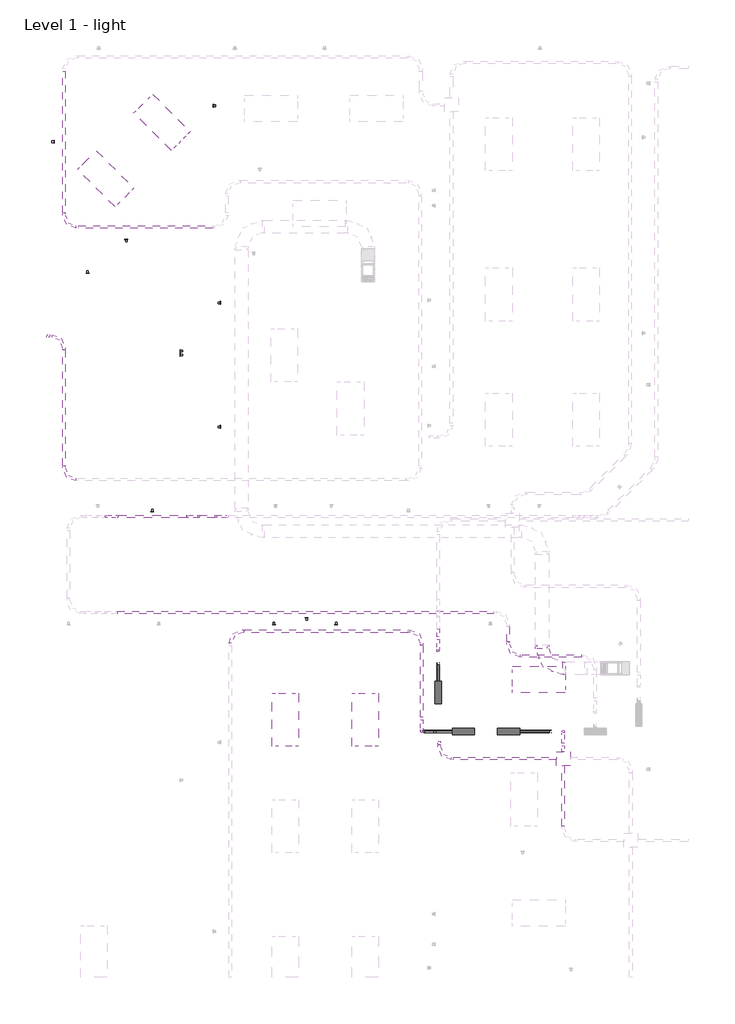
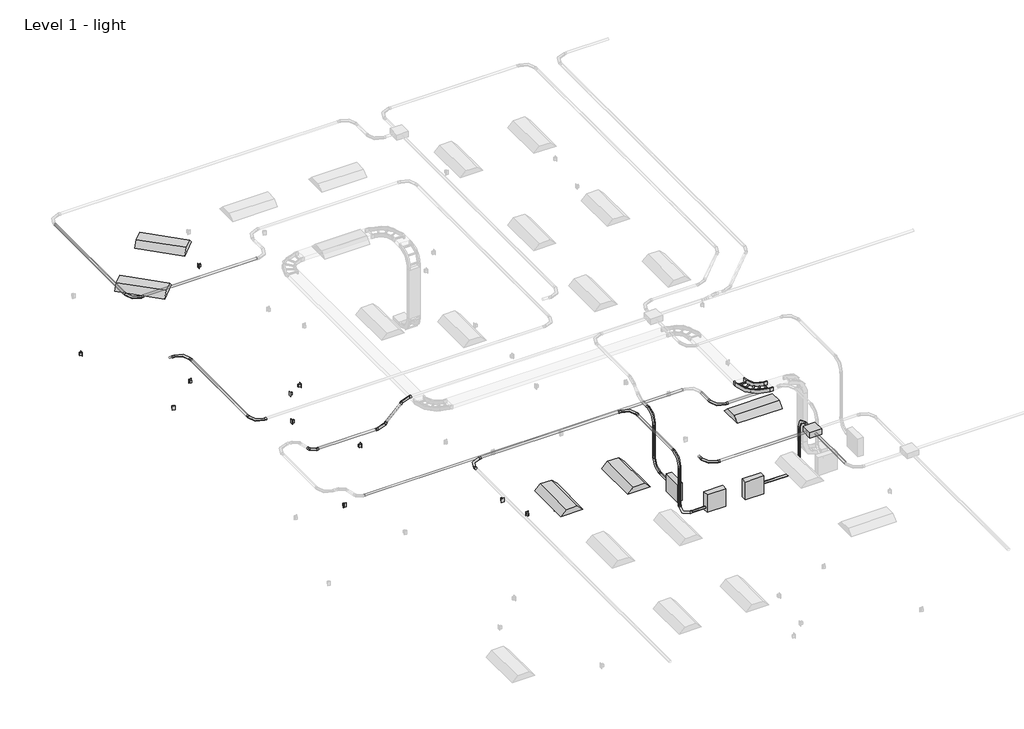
# One storey, part 2 of 5: 22 cable carrier segments, 18 cable carrier fittings, 12 proxies, 5 light fixtures, 3 switching devices.
"""IFC4 building model written with IfcOpenShell, lengths in millimetres."""

from ifc_helpers import new_model, si_unit, point, frame, frame_2d, origin, place, context, project, spatial, circle_curve, trimmed, segment, composite_curve, outline, extrude, transform, mapped, element, save
from components import m_duplex_receptacle_standard_10251bba, m_lighting_and_appliance_panelboard_208v_mlo_100_a_deb79597, m_conduit_elbow_without_fittings_rnc_standard_30e86c5b, m_conduit_elbow_without_fittings_rnc_standard_89ecd00f, m_conduit_junction_box_cross_pvc_standard_3c8550d1, m_ladder_horizontal_bend_standard_b7bc1a9d, m_plain_recessed_lighting_fixture_c7d3eefa

model = new_model("IFC4")

# Units and contexts
model_context = context("Model", 3, world=origin())
ifc_project = project(units=[si_unit("LENGTHUNIT", "METRE", prefix="MILLI")], contexts=[model_context])

# Site, building, storey
site = spatial("IfcSite", under=ifc_project)
building = spatial("IfcBuilding", under=site)
storey = spatial("IfcBuildingStorey", under=building, Name="Level 1 - light", Elevation=0.0)

# Proxies
placement = place(None, origin())
m_duplex_receptacle_standard_shape = m_duplex_receptacle_standard_10251bba(model_context)
element("IfcBuildingElementProxy", 1, Name="M_Duplex Receptacle : Standard", ObjectType="M_Duplex Receptacle : Standard", at=placement, inside=storey, context=model_context, shape_type="MappedRepresentation", body=[
    mapped(m_duplex_receptacle_standard_shape, transform((-19905.112755, 15138.4800155, 460.0), x_axis=(0.0, 1.0, 0.0), y_axis=(0.0, 0.0, 1.0), z_axis=(1.0, 0.0, 0.0))),
])
element("IfcBuildingElementProxy", 2, Name="M_Duplex Receptacle : Standard", ObjectType="M_Duplex Receptacle : Standard", at=placement, inside=storey, context=model_context, shape_type="MappedRepresentation", body=[
    mapped(m_duplex_receptacle_standard_shape, transform((-18251.0734176, 12893.5237109, 460.0), x_axis=(-1.0, 0.0, 0.0), y_axis=(0.0, 0.0, 1.0), z_axis=(0.0, 1.0, 0.0))),
])
element("IfcBuildingElementProxy", 3, Name="M_Duplex Receptacle : Standard", ObjectType="M_Duplex Receptacle : Standard", at=placement, inside=storey, context=model_context, shape_type="MappedRepresentation", body=[
    mapped(m_duplex_receptacle_standard_shape, transform((-16091.937755, 11439.0859659, 460.0), x_axis=(0.0, 1.0, 0.0), y_axis=(0.0, 0.0, 1.0), z_axis=(1.0, 0.0, 0.0))),
])
element("IfcBuildingElementProxy", 4, Name="M_Duplex Receptacle : Standard", ObjectType="M_Duplex Receptacle : Standard", at=placement, inside=storey, context=model_context, shape_type="MappedRepresentation", body=[
    mapped(m_duplex_receptacle_standard_shape, transform((-16091.937755, 8593.3982354, 460.0), x_axis=(0.0, 1.0, 0.0), y_axis=(0.0, 0.0, 1.0), z_axis=(1.0, 0.0, 0.0))),
])
element("IfcBuildingElementProxy", 5, Name="M_Duplex Receptacle : Standard", ObjectType="M_Duplex Receptacle : Standard", at=placement, inside=storey, context=model_context, shape_type="MappedRepresentation", body=[
    mapped(m_duplex_receptacle_standard_shape, transform((-17012.687755, 10245.4188006, 460.0), x_axis=(0.0, -1.0, 0.0), y_axis=(0.0, 0.0, 1.0), z_axis=(-1.0, 0.0, 0.0))),
])
element("IfcBuildingElementProxy", 6, Name="M_Duplex Receptacle : Standard", ObjectType="M_Duplex Receptacle : Standard", at=placement, inside=storey, context=model_context, shape_type="MappedRepresentation", body=[
    mapped(m_duplex_receptacle_standard_shape, transform((-19141.6062776, 12121.9987109, 460.0), x_axis=(1.0, 0.0, 0.0), y_axis=(0.0, 0.0, 1.0), z_axis=(0.0, -1.0, 0.0))),
])
element("IfcBuildingElementProxy", 7, Name="M_Duplex Receptacle : Standard", ObjectType="M_Duplex Receptacle : Standard", at=placement, inside=storey, context=model_context, shape_type="MappedRepresentation", body=[
    mapped(m_duplex_receptacle_standard_shape, transform((-14105.7651397, 4209.8987109, 460.0), x_axis=(-1.0, 0.0, 0.0), y_axis=(0.0, 0.0, 1.0), z_axis=(0.0, 1.0, 0.0))),
])
element("IfcBuildingElementProxy", 8, Name="M_Duplex Receptacle : Standard", ObjectType="M_Duplex Receptacle : Standard", at=placement, inside=storey, context=model_context, shape_type="MappedRepresentation", body=[
    mapped(m_duplex_receptacle_standard_shape, transform((-17651.8899184, 6648.2987109, 460.0), x_axis=(1.0, 0.0, 0.0), y_axis=(0.0, 0.0, 1.0), z_axis=(0.0, -1.0, 0.0))),
])
element("IfcBuildingElementProxy", 9, Name="M_Duplex Receptacle : Standard", ObjectType="M_Duplex Receptacle : Standard", at=placement, inside=storey, context=model_context, shape_type="MappedRepresentation", body=[
    mapped(m_duplex_receptacle_standard_shape, transform((-13429.0781865, 4054.3237109, 460.0), x_axis=(1.0, 0.0, 0.0), y_axis=(0.0, 0.0, 1.0), z_axis=(0.0, -1.0, 0.0))),
])
m_lighting_and_appliance_panelboard_208v_mlo_100_a_shape = m_lighting_and_appliance_panelboard_208v_mlo_100_a_deb79597(model_context)
element("IfcBuildingElementProxy", 10, Name="M_Lighting and Appliance Panelboard - 208V MLO : 100 A", ObjectType="M_Lighting and Appliance Panelboard - 208V MLO : 100 A", at=placement, inside=storey, context=model_context, shape_type="MappedRepresentation", body=[
    mapped(m_lighting_and_appliance_panelboard_208v_mlo_100_a_shape, transform((-10509.4807444, 1530.1987109, 780.9), x_axis=(-1.0, 0.0, 0.0), y_axis=(0.0, 0.0, -1.0), z_axis=(0.0, -1.0, 0.0))),
])
element("IfcBuildingElementProxy", 11, Name="M_Lighting and Appliance Panelboard - 208V MLO : 100 A", ObjectType="M_Lighting and Appliance Panelboard - 208V MLO : 100 A", at=placement, inside=storey, context=model_context, shape_type="MappedRepresentation", body=[
    mapped(m_lighting_and_appliance_panelboard_208v_mlo_100_a_shape, transform((-9470.4, 1530.1987109, 780.9), x_axis=(-1.0, 0.0, 0.0), y_axis=(0.0, 0.0, -1.0), z_axis=(0.0, -1.0, 0.0))),
])
element("IfcBuildingElementProxy", 12, Name="M_Lighting and Appliance Panelboard - 208V MLO : 100 A", ObjectType="M_Lighting and Appliance Panelboard - 208V MLO : 100 A", at=placement, inside=storey, context=model_context, shape_type="MappedRepresentation", body=[
    mapped(m_lighting_and_appliance_panelboard_208v_mlo_100_a_shape, transform((-11164.337755, 2499.4116522, 780.9), x_axis=(0.0, 1.0, 0.0), y_axis=(0.0, 0.0, -1.0), z_axis=(-1.0, 0.0, 0.0))),
])

# Cable carrier fittings
m_conduit_elbow_without_fittings_rnc_standard_shape = m_conduit_elbow_without_fittings_rnc_standard_30e86c5b(model_context)
element("IfcCableCarrierFitting", 13, ObjectType="M_Conduit Elbow - without Fittings - RNC : Standard", at=placement, inside=storey, context=model_context, shape_type="MappedRepresentation", body=[
    mapped(m_conduit_elbow_without_fittings_rnc_standard_shape, transform((-18601.5330554, 6538.0528944, 2427.7), x_axis=(0.7071067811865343, 0.0, -0.7071067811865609), y_axis=(0.7071067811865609, 0.0, 0.7071067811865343), z_axis=(0.0, -1.0, 0.0))),
])
element("IfcCableCarrierFitting", 14, ObjectType="M_Conduit Elbow - without Fittings - RNC : Standard", at=placement, inside=storey, context=model_context, shape_type="MappedRepresentation", body=[
    mapped(m_conduit_elbow_without_fittings_rnc_standard_shape, transform((-16701.5330554, 6538.0528944, 2427.7), x_axis=(1.0, 0.0, 0.0), y_axis=(0.0, 0.0, 1.0), z_axis=(0.0, -1.0, 0.0))),
])
element("IfcCableCarrierFitting", 15, ObjectType="M_Conduit Elbow - without Fittings - RNC : Standard", at=placement, inside=storey, context=model_context, shape_type="MappedRepresentation", body=[
    mapped(m_conduit_elbow_without_fittings_rnc_standard_shape, transform((-16081.2330554, 6538.0528944, 3048.0), x_axis=(0.7071067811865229, 0.0, 0.7071067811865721), y_axis=(0.7071067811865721, 0.0, -0.7071067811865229), z_axis=(0.0, 1.0, 0.0))),
])
m_conduit_elbow_without_fittings_rnc_standard_2_shape = m_conduit_elbow_without_fittings_rnc_standard_89ecd00f(model_context)
element("IfcCableCarrierFitting", 16, ObjectType="M_Conduit Elbow - without Fittings - RNC : Standard", at=placement, inside=storey, context=model_context, shape_type="MappedRepresentation", body=[
    mapped(m_conduit_elbow_without_fittings_rnc_standard_2_shape, transform((-11091.3, 3453.4116522, 1200.0), x_axis=(0.0, 1.0, 0.0), y_axis=(0.0, 0.0, 1.0), z_axis=(1.0, 0.0, 0.0))),
])
element("IfcCableCarrierFitting", 17, ObjectType="M_Conduit Elbow - without Fittings - RNC : Standard", at=placement, inside=storey, context=model_context, shape_type="MappedRepresentation", body=[
    mapped(m_conduit_elbow_without_fittings_rnc_standard_2_shape, transform((-11091.3, 3453.4116522, 2750.0), x_axis=(0.0, 0.0, 1.0), y_axis=(0.0, 1.0, 0.0), z_axis=(-1.0, 0.0, 0.0))),
])
element("IfcCableCarrierFitting", 18, ObjectType="M_Conduit Elbow - without Fittings - RNC : Standard", at=placement, inside=storey, context=model_context, shape_type="MappedRepresentation", body=[
    mapped(m_conduit_elbow_without_fittings_rnc_standard_2_shape, transform((-11463.4807444, 1603.2, 1054.0), x_axis=(-1.0, 0.0, 0.0), y_axis=(0.0, 0.0, 1.0), z_axis=(0.0, 1.0, 0.0))),
])
element("IfcCableCarrierFitting", 19, ObjectType="M_Conduit Elbow - without Fittings - RNC : Standard", at=placement, inside=storey, context=model_context, shape_type="MappedRepresentation", body=[
    mapped(m_conduit_elbow_without_fittings_rnc_standard_2_shape, transform((-11463.4807444, 1603.2, 2750.0), x_axis=(0.0, 0.0, 1.0), y_axis=(0.0, 1.0, 0.0), z_axis=(-1.0, 0.0, 0.0))),
])
element("IfcCableCarrierFitting", 20, ObjectType="M_Conduit Elbow - without Fittings - RNC : Standard", at=placement, inside=storey, context=model_context, shape_type="MappedRepresentation", body=[
    mapped(m_conduit_elbow_without_fittings_rnc_standard_2_shape, transform((-11463.4807444, 3903.2, 2750.0), x_axis=(0.0, 1.0, 0.0), y_axis=(-1.0, 0.0, 0.0), z_axis=(0.0, 0.0, 1.0))),
])
element("IfcCableCarrierFitting", 21, ObjectType="M_Conduit Elbow - without Fittings - RNC : Standard", at=placement, inside=storey, context=model_context, shape_type="MappedRepresentation", body=[
    mapped(m_conduit_elbow_without_fittings_rnc_standard_2_shape, transform((-15863.4807444, 3903.2, 2750.0), x_axis=(-1.0, 0.0, 0.0), y_axis=(0.0, -1.0, 0.0), z_axis=(0.0, 0.0, 1.0))),
])
element("IfcCableCarrierFitting", 22, ObjectType="M_Conduit Elbow - without Fittings - RNC : Standard", at=placement, inside=storey, context=model_context, shape_type="MappedRepresentation", body=[
    mapped(m_conduit_elbow_without_fittings_rnc_standard_2_shape, transform((-11063.4807444, 980.94, 2750.0), x_axis=(0.0, -1.0, 0.0), y_axis=(1.0, 0.0, 0.0), z_axis=(0.0, 0.0, 1.0))),
])
element("IfcCableCarrierFitting", 23, ObjectType="M_Conduit Elbow - without Fittings - RNC : Standard", at=placement, inside=storey, context=model_context, shape_type="MappedRepresentation", body=[
    mapped(m_conduit_elbow_without_fittings_rnc_standard_2_shape, transform((-19682.4372396, 13183.2800092, 3100.0), x_axis=(0.0, -1.0, 0.0), y_axis=(1.0, 0.0, 0.0), z_axis=(0.0, 0.0, 1.0))),
])
element("IfcCableCarrierFitting", 24, ObjectType="M_Conduit Elbow - without Fittings - RNC : Standard", at=placement, inside=storey, context=model_context, shape_type="MappedRepresentation", body=[
    mapped(m_conduit_elbow_without_fittings_rnc_standard_2_shape, transform((-19682.4372396, 7383.2800092, 3100.0), x_axis=(0.0, -1.0, 0.0), y_axis=(1.0, 0.0, 0.0), z_axis=(0.0, 0.0, 1.0))),
])
element("IfcCableCarrierFitting", 25, ObjectType="M_Conduit Elbow - without Fittings - RNC : Standard", at=placement, inside=storey, context=model_context, shape_type="MappedRepresentation", body=[
    mapped(m_conduit_elbow_without_fittings_rnc_standard_2_shape, transform((-19682.4372396, 10683.2800092, 3100.0), x_axis=(0.0, 1.0, 0.0), y_axis=(-1.0, 0.0, 0.0), z_axis=(0.0, 0.0, 1.0))),
])
element("IfcCableCarrierFitting", 26, ObjectType="M_Conduit Elbow - without Fittings - RNC : Standard", at=placement, inside=storey, context=model_context, shape_type="MappedRepresentation", body=[
    mapped(m_conduit_elbow_without_fittings_rnc_standard_2_shape, transform((-8216.4, 1603.2, 1200.0), x_axis=(1.0, 0.0, 0.0), y_axis=(0.0, 0.0, 1.0), z_axis=(0.0, -1.0, 0.0))),
])
element("IfcCableCarrierFitting", 27, ObjectType="M_Conduit Elbow - without Fittings - RNC : Standard", at=placement, inside=storey, context=model_context, shape_type="MappedRepresentation", body=[
    mapped(m_conduit_elbow_without_fittings_rnc_standard_2_shape, transform((-8216.4, 1603.2, 2750.0), x_axis=(0.0, 0.0, 1.0), y_axis=(0.0, -1.0, 0.0), z_axis=(1.0, 0.0, 0.0))),
])
element("IfcCableCarrierFitting", 28, ObjectType="M_Conduit Elbow - without Fittings - RNC : Standard", at=placement, inside=storey, context=model_context, shape_type="MappedRepresentation", body=[
    mapped(m_conduit_elbow_without_fittings_rnc_standard_2_shape, transform((-9481.8, 3338.0528944, 2427.7), x_axis=(0.0, -1.0, 0.0), y_axis=(1.0, 0.0, 0.0), z_axis=(0.0, 0.0, 1.0))),
])
m_conduit_junction_box_cross_pvc_standard_shape = m_conduit_junction_box_cross_pvc_standard_3c8550d1(model_context)
element("IfcCableCarrierFitting", 29, ObjectType="M_Conduit Junction Box - Cross - PVC : Standard", at=placement, inside=storey, context=model_context, shape_type="MappedRepresentation", body=[
    mapped(m_conduit_junction_box_cross_pvc_standard_shape, transform((-8216.4, 980.94, 2750.0), x_axis=(0.0, -1.0, 0.0), y_axis=(1.0, 0.0, 0.0), z_axis=(0.0, 0.0, 1.0))),
])
m_ladder_horizontal_bend_standard_shape = m_ladder_horizontal_bend_standard_b7bc1a9d(model_context)
element("IfcCableCarrierFitting", 30, ObjectType="M_Ladder Horizontal Bend : Standard", at=placement, inside=storey, context=model_context, shape_type="MappedRepresentation", body=[
    mapped(m_ladder_horizontal_bend_standard_shape, transform((-8700.0321645, 3055.778284, 2750.0), x_axis=(0.0, -1.0, 0.0), y_axis=(1.0, 0.0, 0.0), z_axis=(0.0, 0.0, 1.0))),
])

# Cable carrier segments
element("IfcCableCarrierSegment", 31, ObjectType="Rigid Nonmetallic Conduit (RNC Sch 40)", at=placement, inside=storey, context=model_context, shape_type="SweptSolid", body=[
    extrude(outline(composite_curve([segment(trimmed(circle_curve(frame_2d((1200.0, -11091.3)), 30.165), [point((1200.0, -11061.135))], [point((1230.165, -11091.3))], False, "CARTESIAN"), True, "CONTINUOUS"), segment(trimmed(circle_curve(frame_2d((1200.0, -11091.3)), 30.165), [point((1230.165, -11091.3))], [point((1200.0, -11121.465))], False, "CARTESIAN"), True, "CONTINUOUS"), segment(trimmed(circle_curve(frame_2d((1200.0, -11091.3)), 30.165), [point((1200.0, -11121.465))], [point((1169.835, -11091.3))], False, "CARTESIAN"), True, "CONTINUOUS"), segment(trimmed(circle_curve(frame_2d((1200.0, -11091.3)), 30.165), [point((1169.835, -11091.3))], [point((1200.0, -11061.135))], False, "CARTESIAN"), True, "CONTINUOUS")], self_intersect=False)), frame((0.0, 2753.4116522, 0.0), z_axis=(0.0, 1.0, 0.0), x_axis=(0.0, 0.0, 1.0)), (0.0, 0.0, 1.0), 377.74),
])
element("IfcCableCarrierSegment", 32, ObjectType="Rigid Nonmetallic Conduit (RNC Sch 40)", at=placement, inside=storey, context=model_context, shape_type="SweptSolid", body=[
    extrude(outline(composite_curve([segment(trimmed(circle_curve(frame_2d((-11091.3, 3453.4116522)), 30.165), [point((-11121.465, 3453.4116522))], [point((-11091.3, 3483.5766522))], False, "CARTESIAN"), True, "CONTINUOUS"), segment(trimmed(circle_curve(frame_2d((-11091.3, 3453.4116522)), 30.165), [point((-11091.3, 3483.5766522))], [point((-11061.135, 3453.4116522))], False, "CARTESIAN"), True, "CONTINUOUS"), segment(trimmed(circle_curve(frame_2d((-11091.3, 3453.4116522)), 30.165), [point((-11061.135, 3453.4116522))], [point((-11091.3, 3423.2466522))], False, "CARTESIAN"), True, "CONTINUOUS"), segment(trimmed(circle_curve(frame_2d((-11091.3, 3453.4116522)), 30.165), [point((-11091.3, 3423.2466522))], [point((-11121.465, 3453.4116522))], False, "CARTESIAN"), True, "CONTINUOUS")], self_intersect=False)), frame((0.0, 0.0, 1522.26), z_axis=(0.0, 0.0, 1.0), x_axis=(1.0, 0.0, 0.0)), (0.0, 0.0, 1.0), 905.48),
])
element("IfcCableCarrierSegment", 33, ObjectType="Rigid Nonmetallic Conduit (RNC Sch 40)", at=placement, inside=storey, context=model_context, shape_type="SweptSolid", body=[
    extrude(outline(composite_curve([segment(trimmed(circle_curve(frame_2d((2750.0, -11091.3)), 30.165), [point((2750.0, -11061.135))], [point((2780.165, -11091.3))], False, "CARTESIAN"), True, "CONTINUOUS"), segment(trimmed(circle_curve(frame_2d((2750.0, -11091.3)), 30.165), [point((2780.165, -11091.3))], [point((2750.0, -11121.465))], False, "CARTESIAN"), True, "CONTINUOUS"), segment(trimmed(circle_curve(frame_2d((2750.0, -11091.3)), 30.165), [point((2750.0, -11121.465))], [point((2719.835, -11091.3))], False, "CARTESIAN"), True, "CONTINUOUS"), segment(trimmed(circle_curve(frame_2d((2750.0, -11091.3)), 30.165), [point((2719.835, -11091.3))], [point((2750.0, -11061.135))], False, "CARTESIAN"), True, "CONTINUOUS")], self_intersect=False)), frame((0.0, 3775.6716522, 0.0), z_axis=(0.0, 1.0, 0.0), x_axis=(0.0, 0.0, 1.0)), (0.0, 0.0, 1.0), 189.4975864),
])
element("IfcCableCarrierSegment", 34, ObjectType="Rigid Nonmetallic Conduit (RNC Sch 40)", at=placement, inside=storey, context=model_context, shape_type="SweptSolid", body=[
    extrude(outline(composite_curve([segment(trimmed(circle_curve(frame_2d((1603.2, 1054.0)), 30.165), [point((1633.365, 1054.0))], [point((1603.2, 1023.835))], False, "CARTESIAN"), True, "CONTINUOUS"), segment(trimmed(circle_curve(frame_2d((1603.2, 1054.0)), 30.165), [point((1603.2, 1023.835))], [point((1573.035, 1054.0))], False, "CARTESIAN"), True, "CONTINUOUS"), segment(trimmed(circle_curve(frame_2d((1603.2, 1054.0)), 30.165), [point((1573.035, 1054.0))], [point((1603.2, 1084.165))], False, "CARTESIAN"), True, "CONTINUOUS"), segment(trimmed(circle_curve(frame_2d((1603.2, 1054.0)), 30.165), [point((1603.2, 1084.165))], [point((1633.365, 1054.0))], False, "CARTESIAN"), True, "CONTINUOUS")], self_intersect=False)), frame((-11141.2207444, 0.0, 0.0), z_axis=(1.0, 0.0, 0.0), x_axis=(0.0, 1.0, 0.0)), (0.0, 0.0, 1.0), 377.74),
])
element("IfcCableCarrierSegment", 35, ObjectType="Rigid Nonmetallic Conduit (RNC Sch 40)", at=placement, inside=storey, context=model_context, shape_type="SweptSolid", body=[
    extrude(outline(composite_curve([segment(trimmed(circle_curve(frame_2d((-11463.4807444, 1603.2)), 30.165), [point((-11493.6457444, 1603.2))], [point((-11463.4807444, 1633.365))], False, "CARTESIAN"), True, "CONTINUOUS"), segment(trimmed(circle_curve(frame_2d((-11463.4807444, 1603.2)), 30.165), [point((-11463.4807444, 1633.365))], [point((-11433.3157444, 1603.2))], False, "CARTESIAN"), True, "CONTINUOUS"), segment(trimmed(circle_curve(frame_2d((-11463.4807444, 1603.2)), 30.165), [point((-11433.3157444, 1603.2))], [point((-11463.4807444, 1573.035))], False, "CARTESIAN"), True, "CONTINUOUS"), segment(trimmed(circle_curve(frame_2d((-11463.4807444, 1603.2)), 30.165), [point((-11463.4807444, 1573.035))], [point((-11493.6457444, 1603.2))], False, "CARTESIAN"), True, "CONTINUOUS")], self_intersect=False)), frame((0.0, 0.0, 1376.26), z_axis=(0.0, 0.0, 1.0), x_axis=(1.0, 0.0, 0.0)), (0.0, 0.0, 1.0), 1051.48),
])
element("IfcCableCarrierSegment", 36, ObjectType="Rigid Nonmetallic Conduit (RNC Sch 40)", at=placement, inside=storey, context=model_context, shape_type="SweptSolid", body=[
    extrude(outline(composite_curve([segment(trimmed(circle_curve(frame_2d((2750.0, -11463.4807444)), 30.165), [point((2750.0, -11433.3157444))], [point((2780.165, -11463.4807444))], False, "CARTESIAN"), True, "CONTINUOUS"), segment(trimmed(circle_curve(frame_2d((2750.0, -11463.4807444)), 30.165), [point((2780.165, -11463.4807444))], [point((2750.0, -11493.6457444))], False, "CARTESIAN"), True, "CONTINUOUS"), segment(trimmed(circle_curve(frame_2d((2750.0, -11463.4807444)), 30.165), [point((2750.0, -11493.6457444))], [point((2719.835, -11463.4807444))], False, "CARTESIAN"), True, "CONTINUOUS"), segment(trimmed(circle_curve(frame_2d((2750.0, -11463.4807444)), 30.165), [point((2719.835, -11463.4807444))], [point((2750.0, -11433.3157444))], False, "CARTESIAN"), True, "CONTINUOUS")], self_intersect=False)), frame((0.0, 1925.46, 0.0), z_axis=(0.0, 1.0, 0.0), x_axis=(0.0, 0.0, 1.0)), (0.0, 0.0, 1.0), 1655.48),
])
element("IfcCableCarrierSegment", 37, ObjectType="Rigid Nonmetallic Conduit (RNC Sch 40)", at=placement, inside=storey, context=model_context, shape_type="SweptSolid", body=[
    extrude(outline(composite_curve([segment(trimmed(circle_curve(frame_2d((3903.2, 2750.0)), 30.165), [point((3933.365, 2750.0))], [point((3903.2, 2719.835))], False, "CARTESIAN"), True, "CONTINUOUS"), segment(trimmed(circle_curve(frame_2d((3903.2, 2750.0)), 30.165), [point((3903.2, 2719.835))], [point((3873.035, 2750.0))], False, "CARTESIAN"), True, "CONTINUOUS"), segment(trimmed(circle_curve(frame_2d((3903.2, 2750.0)), 30.165), [point((3873.035, 2750.0))], [point((3903.2, 2780.165))], False, "CARTESIAN"), True, "CONTINUOUS"), segment(trimmed(circle_curve(frame_2d((3903.2, 2750.0)), 30.165), [point((3903.2, 2780.165))], [point((3933.365, 2750.0))], False, "CARTESIAN"), True, "CONTINUOUS")], self_intersect=False)), frame((-15541.2207444, 0.0, 0.0), z_axis=(1.0, 0.0, 0.0), x_axis=(0.0, 1.0, 0.0)), (0.0, 0.0, 1.0), 3755.48),
])
element("IfcCableCarrierSegment", 38, ObjectType="Rigid Nonmetallic Conduit (RNC Sch 40)", at=placement, inside=storey, context=model_context, shape_type="SweptSolid", body=[
    extrude(outline(composite_curve([segment(trimmed(circle_curve(frame_2d((980.94, 2750.0)), 30.165), [point((1011.105, 2750.0))], [point((980.94, 2719.835))], False, "CARTESIAN"), True, "CONTINUOUS"), segment(trimmed(circle_curve(frame_2d((980.94, 2750.0)), 30.165), [point((980.94, 2719.835))], [point((950.775, 2750.0))], False, "CARTESIAN"), True, "CONTINUOUS"), segment(trimmed(circle_curve(frame_2d((980.94, 2750.0)), 30.165), [point((950.775, 2750.0))], [point((980.94, 2780.165))], False, "CARTESIAN"), True, "CONTINUOUS"), segment(trimmed(circle_curve(frame_2d((980.94, 2750.0)), 30.165), [point((980.94, 2780.165))], [point((1011.105, 2750.0))], False, "CARTESIAN"), True, "CONTINUOUS")], self_intersect=False)), frame((-10741.2207444, 0.0, 0.0), z_axis=(1.0, 0.0, 0.0), x_axis=(0.0, 1.0, 0.0)), (0.0, 0.0, 1.0), 2365.8207444),
])
element("IfcCableCarrierSegment", 39, ObjectType="Rigid Nonmetallic Conduit (RNC Sch 40)", at=placement, inside=storey, context=model_context, shape_type="SweptSolid", body=[
    extrude(outline(composite_curve([segment(trimmed(circle_curve(frame_2d((2750.0, -11063.4807444)), 30.165), [point((2750.0, -11033.3157444))], [point((2780.165, -11063.4807444))], False, "CARTESIAN"), True, "CONTINUOUS"), segment(trimmed(circle_curve(frame_2d((2750.0, -11063.4807444)), 30.165), [point((2780.165, -11063.4807444))], [point((2750.0, -11093.6457444))], False, "CARTESIAN"), True, "CONTINUOUS"), segment(trimmed(circle_curve(frame_2d((2750.0, -11063.4807444)), 30.165), [point((2750.0, -11093.6457444))], [point((2719.835, -11063.4807444))], False, "CARTESIAN"), True, "CONTINUOUS"), segment(trimmed(circle_curve(frame_2d((2750.0, -11063.4807444)), 30.165), [point((2719.835, -11063.4807444))], [point((2750.0, -11033.3157444))], False, "CARTESIAN"), True, "CONTINUOUS")], self_intersect=False)), frame((0.0, 1303.2, 0.0), z_axis=(0.0, 1.0, 0.0), x_axis=(0.0, 0.0, 1.0)), (0.0, 0.0, 1.0), 77.74),
])
element("IfcCableCarrierSegment", 40, ObjectType="Rigid Nonmetallic Conduit (RNC Sch 40)", at=placement, inside=storey, context=model_context, shape_type="SweptSolid", body=[
    extrude(outline(composite_curve([segment(trimmed(circle_curve(frame_2d((3100.0, -19682.4372396)), 30.165), [point((3100.0, -19712.6022396))], [point((3069.835, -19682.4372396))], False, "CARTESIAN"), True, "CONTINUOUS"), segment(trimmed(circle_curve(frame_2d((3100.0, -19682.4372396)), 30.165), [point((3069.835, -19682.4372396))], [point((3100.0, -19652.2722396))], False, "CARTESIAN"), True, "CONTINUOUS"), segment(trimmed(circle_curve(frame_2d((3100.0, -19682.4372396)), 30.165), [point((3100.0, -19652.2722396))], [point((3130.165, -19682.4372396))], False, "CARTESIAN"), True, "CONTINUOUS"), segment(trimmed(circle_curve(frame_2d((3100.0, -19682.4372396)), 30.165), [point((3130.165, -19682.4372396))], [point((3100.0, -19712.6022396))], False, "CARTESIAN"), True, "CONTINUOUS")], self_intersect=False)), frame((0.0, 13505.5400092, 0.0), z_axis=(0.0, 1.0, 0.0), x_axis=(0.0, 0.0, 1.0)), (0.0, 0.0, 1.0), 3255.48),
])
element("IfcCableCarrierSegment", 41, ObjectType="Rigid Nonmetallic Conduit (RNC Sch 40)", at=placement, inside=storey, context=model_context, shape_type="SweptSolid", body=[
    extrude(outline(composite_curve([segment(trimmed(circle_curve(frame_2d((13183.2800092, 3100.0)), 30.165), [point((13153.1150092, 3100.0))], [point((13183.2800092, 3130.165))], False, "CARTESIAN"), True, "CONTINUOUS"), segment(trimmed(circle_curve(frame_2d((13183.2800092, 3100.0)), 30.165), [point((13183.2800092, 3130.165))], [point((13213.4450092, 3100.0))], False, "CARTESIAN"), True, "CONTINUOUS"), segment(trimmed(circle_curve(frame_2d((13183.2800092, 3100.0)), 30.165), [point((13213.4450092, 3100.0))], [point((13183.2800092, 3069.835))], False, "CARTESIAN"), True, "CONTINUOUS"), segment(trimmed(circle_curve(frame_2d((13183.2800092, 3100.0)), 30.165), [point((13183.2800092, 3069.835))], [point((13153.1150092, 3100.0))], False, "CARTESIAN"), True, "CONTINUOUS")], self_intersect=False)), frame((-19360.1772396, 0.0, 0.0), z_axis=(1.0, 0.0, 0.0), x_axis=(0.0, 1.0, 0.0)), (0.0, 0.0, 1.0), 3095.48),
])
element("IfcCableCarrierSegment", 42, ObjectType="Rigid Nonmetallic Conduit (RNC Sch 40)", at=placement, inside=storey, context=model_context, shape_type="SweptSolid", body=[
    extrude(outline(composite_curve([segment(trimmed(circle_curve(frame_2d((3100.0, -19682.4372396)), 30.165), [point((3100.0, -19652.2722396))], [point((3130.165, -19682.4372396))], False, "CARTESIAN"), True, "CONTINUOUS"), segment(trimmed(circle_curve(frame_2d((3100.0, -19682.4372396)), 30.165), [point((3130.165, -19682.4372396))], [point((3100.0, -19712.6022396))], False, "CARTESIAN"), True, "CONTINUOUS"), segment(trimmed(circle_curve(frame_2d((3100.0, -19682.4372396)), 30.165), [point((3100.0, -19712.6022396))], [point((3069.835, -19682.4372396))], False, "CARTESIAN"), True, "CONTINUOUS"), segment(trimmed(circle_curve(frame_2d((3100.0, -19682.4372396)), 30.165), [point((3069.835, -19682.4372396))], [point((3100.0, -19652.2722396))], False, "CARTESIAN"), True, "CONTINUOUS")], self_intersect=False)), frame((0.0, 7705.5400092, 0.0), z_axis=(0.0, 1.0, 0.0), x_axis=(0.0, 0.0, 1.0)), (0.0, 0.0, 1.0), 2655.48),
])
element("IfcCableCarrierSegment", 43, ObjectType="Rigid Nonmetallic Conduit (RNC Sch 40)", at=placement, inside=storey, context=model_context, shape_type="SweptSolid", body=[
    extrude(outline(composite_curve([segment(trimmed(circle_curve(frame_2d((10683.2800092, 3100.0)), 30.165), [point((10713.4450092, 3100.0))], [point((10683.2800092, 3069.835))], False, "CARTESIAN"), True, "CONTINUOUS"), segment(trimmed(circle_curve(frame_2d((10683.2800092, 3100.0)), 30.165), [point((10683.2800092, 3069.835))], [point((10653.1150092, 3100.0))], False, "CARTESIAN"), True, "CONTINUOUS"), segment(trimmed(circle_curve(frame_2d((10683.2800092, 3100.0)), 30.165), [point((10653.1150092, 3100.0))], [point((10683.2800092, 3130.165))], False, "CARTESIAN"), True, "CONTINUOUS"), segment(trimmed(circle_curve(frame_2d((10683.2800092, 3100.0)), 30.165), [point((10683.2800092, 3130.165))], [point((10713.4450092, 3100.0))], False, "CARTESIAN"), True, "CONTINUOUS")], self_intersect=False)), frame((-20082.4372396, 0.0, 0.0), z_axis=(1.0, 0.0, 0.0), x_axis=(0.0, 1.0, 0.0)), (0.0, 0.0, 1.0), 77.74),
])
element("IfcCableCarrierSegment", 44, ObjectType="Rigid Nonmetallic Conduit (RNC Sch 40)", at=placement, inside=storey, context=model_context, shape_type="SweptSolid", body=[
    extrude(outline(composite_curve([segment(trimmed(circle_curve(frame_2d((1603.2, 1200.0)), 30.165), [point((1573.035, 1200.0))], [point((1603.2, 1230.165))], False, "CARTESIAN"), True, "CONTINUOUS"), segment(trimmed(circle_curve(frame_2d((1603.2, 1200.0)), 30.165), [point((1603.2, 1230.165))], [point((1633.365, 1200.0))], False, "CARTESIAN"), True, "CONTINUOUS"), segment(trimmed(circle_curve(frame_2d((1603.2, 1200.0)), 30.165), [point((1633.365, 1200.0))], [point((1603.2, 1169.835))], False, "CARTESIAN"), True, "CONTINUOUS"), segment(trimmed(circle_curve(frame_2d((1603.2, 1200.0)), 30.165), [point((1603.2, 1169.835))], [point((1573.035, 1200.0))], False, "CARTESIAN"), True, "CONTINUOUS")], self_intersect=False)), frame((-9216.4, 0.0, 0.0), z_axis=(1.0, 0.0, 0.0), x_axis=(0.0, 1.0, 0.0)), (0.0, 0.0, 1.0), 677.74),
])
element("IfcCableCarrierSegment", 45, ObjectType="Rigid Nonmetallic Conduit (RNC Sch 40)", at=placement, inside=storey, context=model_context, shape_type="SweptSolid", body=[
    extrude(outline(composite_curve([segment(trimmed(circle_curve(frame_2d((-8216.4, 1603.2)), 30.165), [point((-8246.565, 1603.2))], [point((-8216.4, 1633.365))], False, "CARTESIAN"), True, "CONTINUOUS"), segment(trimmed(circle_curve(frame_2d((-8216.4, 1603.2)), 30.165), [point((-8216.4, 1633.365))], [point((-8186.235, 1603.2))], False, "CARTESIAN"), True, "CONTINUOUS"), segment(trimmed(circle_curve(frame_2d((-8216.4, 1603.2)), 30.165), [point((-8186.235, 1603.2))], [point((-8216.4, 1573.035))], False, "CARTESIAN"), True, "CONTINUOUS"), segment(trimmed(circle_curve(frame_2d((-8216.4, 1603.2)), 30.165), [point((-8216.4, 1573.035))], [point((-8246.565, 1603.2))], False, "CARTESIAN"), True, "CONTINUOUS")], self_intersect=False)), frame((0.0, 0.0, 1522.26), z_axis=(0.0, 0.0, 1.0), x_axis=(1.0, 0.0, 0.0)), (0.0, 0.0, 1.0), 905.48),
])
element("IfcCableCarrierSegment", 46, ObjectType="Rigid Nonmetallic Conduit (RNC Sch 40)", at=placement, inside=storey, context=model_context, shape_type="SweptSolid", body=[
    extrude(outline(composite_curve([segment(trimmed(circle_curve(frame_2d((2750.0, -8216.4)), 30.165), [point((2750.0, -8246.565))], [point((2719.835, -8216.4))], False, "CARTESIAN"), True, "CONTINUOUS"), segment(trimmed(circle_curve(frame_2d((2750.0, -8216.4)), 30.165), [point((2719.835, -8216.4))], [point((2750.0, -8186.235))], False, "CARTESIAN"), True, "CONTINUOUS"), segment(trimmed(circle_curve(frame_2d((2750.0, -8216.4)), 30.165), [point((2750.0, -8186.235))], [point((2780.165, -8216.4))], False, "CARTESIAN"), True, "CONTINUOUS"), segment(trimmed(circle_curve(frame_2d((2750.0, -8216.4)), 30.165), [point((2780.165, -8216.4))], [point((2750.0, -8246.565))], False, "CARTESIAN"), True, "CONTINUOUS")], self_intersect=False)), frame((0.0, 1139.94, 0.0), z_axis=(0.0, 1.0, 0.0), x_axis=(0.0, 0.0, 1.0)), (0.0, 0.0, 1.0), 141.0),
])
element("IfcCableCarrierSegment", 47, ObjectType="Rigid Nonmetallic Conduit (RNC Sch 40)", at=placement, inside=storey, context=model_context, shape_type="SweptSolid", body=[
    extrude(outline(composite_curve([segment(trimmed(circle_curve(frame_2d((2750.0, -8216.4)), 30.165), [point((2750.0, -8246.565))], [point((2719.835, -8216.4))], False, "CARTESIAN"), True, "CONTINUOUS"), segment(trimmed(circle_curve(frame_2d((2750.0, -8216.4)), 30.165), [point((2719.835, -8216.4))], [point((2750.0, -8186.235))], False, "CARTESIAN"), True, "CONTINUOUS"), segment(trimmed(circle_curve(frame_2d((2750.0, -8216.4)), 30.165), [point((2750.0, -8186.235))], [point((2780.165, -8216.4))], False, "CARTESIAN"), True, "CONTINUOUS"), segment(trimmed(circle_curve(frame_2d((2750.0, -8216.4)), 30.165), [point((2780.165, -8216.4))], [point((2750.0, -8246.565))], False, "CARTESIAN"), True, "CONTINUOUS")], self_intersect=False)), frame((0.0, -574.54, 0.0), z_axis=(0.0, 1.0, 0.0), x_axis=(0.0, 0.0, 1.0)), (0.0, 0.0, 1.0), 1396.48),
])
element("IfcCableCarrierSegment", 48, ObjectType="Rigid Nonmetallic Conduit (RNC Sch 40)", at=placement, inside=storey, context=model_context, shape_type="SweptSolid", body=[
    extrude(outline(composite_curve([segment(trimmed(circle_curve(frame_2d((3338.0528944, 2427.7)), 30.165), [point((3368.2178944, 2427.7))], [point((3338.0528944, 2397.535))], False, "CARTESIAN"), True, "CONTINUOUS"), segment(trimmed(circle_curve(frame_2d((3338.0528944, 2427.7)), 30.165), [point((3338.0528944, 2397.535))], [point((3307.8878944, 2427.7))], False, "CARTESIAN"), True, "CONTINUOUS"), segment(trimmed(circle_curve(frame_2d((3338.0528944, 2427.7)), 30.165), [point((3307.8878944, 2427.7))], [point((3338.0528944, 2457.865))], False, "CARTESIAN"), True, "CONTINUOUS"), segment(trimmed(circle_curve(frame_2d((3338.0528944, 2427.7)), 30.165), [point((3338.0528944, 2457.865))], [point((3368.2178944, 2427.7))], False, "CARTESIAN"), True, "CONTINUOUS")], self_intersect=False)), frame((-9159.54, 0.0, 0.0), z_axis=(1.0, 0.0, 0.0), x_axis=(0.0, 1.0, 0.0)), (0.0, 0.0, 1.0), 1355.48),
])
element("IfcCableCarrierSegment", 49, ObjectType="Rigid Nonmetallic Conduit (RNC Sch 40)", at=placement, inside=storey, context=model_context, shape_type="SweptSolid", body=[
    extrude(outline(composite_curve([segment(trimmed(circle_curve(frame_2d((2427.7, -9481.8)), 30.165), [point((2427.7, -9451.635))], [point((2457.865, -9481.8))], False, "CARTESIAN"), True, "CONTINUOUS"), segment(trimmed(circle_curve(frame_2d((2427.7, -9481.8)), 30.165), [point((2457.865, -9481.8))], [point((2427.7, -9511.965))], False, "CARTESIAN"), True, "CONTINUOUS"), segment(trimmed(circle_curve(frame_2d((2427.7, -9481.8)), 30.165), [point((2427.7, -9511.965))], [point((2397.535, -9481.8))], False, "CARTESIAN"), True, "CONTINUOUS"), segment(trimmed(circle_curve(frame_2d((2427.7, -9481.8)), 30.165), [point((2397.535, -9481.8))], [point((2427.7, -9451.635))], False, "CARTESIAN"), True, "CONTINUOUS")], self_intersect=False)), frame((0.0, 3660.3128944, 0.0), z_axis=(0.0, 1.0, 0.0), x_axis=(0.0, 0.0, 1.0)), (0.0, 0.0, 1.0), 355.48),
])
element("IfcCableCarrierSegment", 50, ObjectType="Rigid Nonmetallic Conduit (RNC Sch 40)", at=placement, inside=storey, context=model_context, shape_type="SweptSolid", body=[
    extrude(outline(composite_curve([segment(trimmed(circle_curve(frame_2d((4338.0528944, 2427.7)), 30.165), [point((4307.8878944, 2427.7))], [point((4338.0528944, 2457.865))], False, "CARTESIAN"), True, "CONTINUOUS"), segment(trimmed(circle_curve(frame_2d((4338.0528944, 2427.7)), 30.165), [point((4338.0528944, 2457.865))], [point((4368.2178944, 2427.7))], False, "CARTESIAN"), True, "CONTINUOUS"), segment(trimmed(circle_curve(frame_2d((4338.0528944, 2427.7)), 30.165), [point((4368.2178944, 2427.7))], [point((4338.0528944, 2397.535))], False, "CARTESIAN"), True, "CONTINUOUS"), segment(trimmed(circle_curve(frame_2d((4338.0528944, 2427.7)), 30.165), [point((4338.0528944, 2397.535))], [point((4307.8878944, 2427.7))], False, "CARTESIAN"), True, "CONTINUOUS")], self_intersect=False)), frame((-18449.0787508, 0.0, 0.0), z_axis=(1.0, 0.0, 0.0), x_axis=(0.0, 1.0, 0.0)), (0.0, 0.0, 1.0), 8645.0187508),
])
element("IfcCableCarrierSegment", 51, ObjectType="Rigid Nonmetallic Conduit (RNC Sch 40)", at=placement, inside=storey, context=model_context, shape_type="SweptSolid", body=[
    extrude(outline(composite_curve([segment(trimmed(circle_curve(frame_2d((6538.0528944, 2427.7)), 30.165), [point((6507.8878944, 2427.7))], [point((6538.0528944, 2457.865))], False, "CARTESIAN"), True, "CONTINUOUS"), segment(trimmed(circle_curve(frame_2d((6538.0528944, 2427.7)), 30.165), [point((6538.0528944, 2457.865))], [point((6568.2178944, 2427.7))], False, "CARTESIAN"), True, "CONTINUOUS"), segment(trimmed(circle_curve(frame_2d((6538.0528944, 2427.7)), 30.165), [point((6568.2178944, 2427.7))], [point((6538.0528944, 2397.535))], False, "CARTESIAN"), True, "CONTINUOUS"), segment(trimmed(circle_curve(frame_2d((6538.0528944, 2427.7)), 30.165), [point((6538.0528944, 2397.535))], [point((6507.8878944, 2427.7))], False, "CARTESIAN"), True, "CONTINUOUS")], self_intersect=False)), frame((-18438.2906417, 0.0, 0.0), z_axis=(1.0, 0.0, 0.0), x_axis=(0.0, 1.0, 0.0)), (0.0, 0.0, 1.0), 1573.5151727),
])
element("IfcCableCarrierSegment", 52, ObjectType="Rigid Nonmetallic Conduit (RNC Sch 40)", at=placement, inside=storey, context=model_context, shape_type="SweptSolid", body=[
    extrude(outline(composite_curve([segment(trimmed(circle_curve(frame_2d((0.0, 30.165)), 30.165), [point((0.0, 0.0))], [point((-30.165, 30.165))], False, "CARTESIAN"), True, "CONTINUOUS"), segment(trimmed(circle_curve(frame_2d((0.0, 30.165)), 30.165), [point((-30.165, 30.165))], [point((0.0, 60.33))], False, "CARTESIAN"), True, "CONTINUOUS"), segment(trimmed(circle_curve(frame_2d((0.0, 30.165)), 30.165), [point((0.0, 60.33))], [point((30.165, 30.165))], False, "CARTESIAN"), True, "CONTINUOUS"), segment(trimmed(circle_curve(frame_2d((0.0, 30.165)), 30.165), [point((30.165, 30.165))], [point((0.0, 0.0))], False, "CARTESIAN"), True, "CONTINUOUS")], self_intersect=False)), frame((-16586.1032377, 6507.8878944, 2543.1298177), z_axis=(0.7071067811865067, 0.0, 0.7071067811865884), x_axis=(0.7071067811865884, 0.0, -0.7071067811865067)), (0.0, 0.0, 1.0), 550.7518455),
])

# Light fixtures
m_plain_recessed_lighting_fixture_shape = m_plain_recessed_lighting_fixture_c7d3eefa(model_context)
element("IfcLightFixture", 53, ObjectType="M_Plain Recessed Lighting Fixture : tubelight", at=placement, inside=storey, context=model_context, shape_type="MappedRepresentation", body=[
    mapped(m_plain_recessed_lighting_fixture_shape, transform((-19369.3989257, 14503.9257064, 2438.4), x_axis=(0.7071067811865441, -0.7071067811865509, 0.0), y_axis=(-0.7071067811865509, -0.7071067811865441, 0.0), z_axis=(0.0, 0.0, -1.0))),
])
element("IfcLightFixture", 54, ObjectType="M_Plain Recessed Lighting Fixture : tubelight", at=placement, inside=storey, context=model_context, shape_type="MappedRepresentation", body=[
    mapped(m_plain_recessed_lighting_fixture_shape, transform((-16783.2265842, 15366.1717154, 2438.4), x_axis=(-0.7071067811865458, 0.7071067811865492, 0.0), y_axis=(0.7071067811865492, 0.7071067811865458, 0.0), z_axis=(0.0, 0.0, -1.0))),
])
element("IfcLightFixture", 55, ObjectType="M_Plain Recessed Lighting Fixture : tubelight", at=placement, inside=storey, context=model_context, shape_type="MappedRepresentation", body=[
    mapped(m_plain_recessed_lighting_fixture_shape, transform((-14290.125255, 1260.3237109, 2438.4), x_axis=(0.0, 1.0, 0.0), y_axis=(1.0, 0.0, 0.0), z_axis=(0.0, 0.0, -1.0))),
])
element("IfcLightFixture", 56, ObjectType="M_Plain Recessed Lighting Fixture : tubelight", at=placement, inside=storey, context=model_context, shape_type="MappedRepresentation", body=[
    mapped(m_plain_recessed_lighting_fixture_shape, transform((-12461.325255, 1260.3237109, 2438.4), x_axis=(0.0, 1.0, 0.0), y_axis=(1.0, 0.0, 0.0), z_axis=(0.0, 0.0, -1.0))),
])
element("IfcLightFixture", 57, ObjectType="M_Plain Recessed Lighting Fixture : tubelight", at=placement, inside=storey, context=model_context, shape_type="MappedRepresentation", body=[
    mapped(m_plain_recessed_lighting_fixture_shape, transform((-9387.825255, 2487.7612109, 2438.4), x_axis=(1.0, 0.0, 0.0), y_axis=(0.0, -1.0, 0.0), z_axis=(0.0, 0.0, -1.0))),
])

# Switching devices
element("IfcSwitchingDevice", 58, ObjectType="M_Lighting Switches : Door", at=placement, inside=storey, context=model_context, shape_type="MappedRepresentation", body=[
    mapped(m_duplex_receptacle_standard_shape, transform((-16247.512755, 15962.8519395, 1200.0), x_axis=(0.0, -1.0, 0.0), y_axis=(0.0, 0.0, 1.0), z_axis=(-1.0, 0.0, 0.0))),
])
element("IfcSwitchingDevice", 59, ObjectType="M_Lighting Switches : Door", at=placement, inside=storey, context=model_context, shape_type="MappedRepresentation", body=[
    mapped(m_duplex_receptacle_standard_shape, transform((-14860.6548492, 4054.3237109, 1200.0), x_axis=(1.0, 0.0, 0.0), y_axis=(0.0, 0.0, 1.0), z_axis=(0.0, -1.0, 0.0))),
])
element("IfcSwitchingDevice", 60, ObjectType="M_Lighting Switches : Door", at=placement, inside=storey, context=model_context, shape_type="MappedRepresentation", body=[
    mapped(m_duplex_receptacle_standard_shape, transform((-17012.687755, 10332.8721474, 1200.0), x_axis=(0.0, -1.0, 0.0), y_axis=(0.0, 0.0, 1.0), z_axis=(-1.0, 0.0, 0.0))),
])

save(model, "model.ifc")
